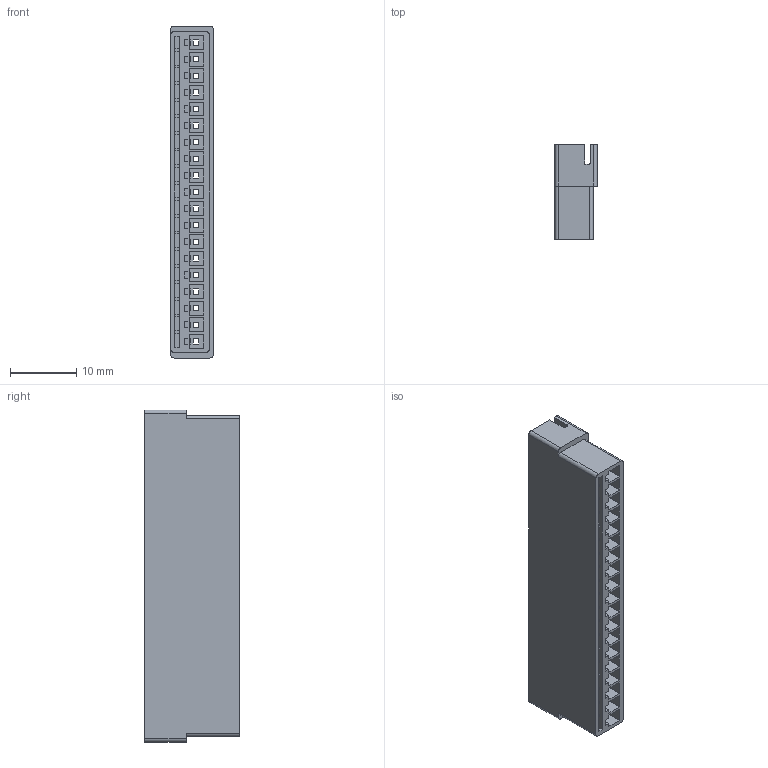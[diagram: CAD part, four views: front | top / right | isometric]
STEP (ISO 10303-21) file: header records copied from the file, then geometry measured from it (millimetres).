
FILE_DESCRIPTION(('CATIA V5 STEP Exchange'),'2;1');
FILE_NAME('\\Erp\共享文件夹\3D文件\小覃\条形连接器-小黄\XH\NEY\HC-XH-19EY-05(2.50 单排 母孔座-HCTL).stp','2025-02-25T09:54:22+00:00',('none'),('none'),'CATIA Version 5 Release 20 GA (IN-10)','CATIA V5 STEP AP203','none');
FILE_SCHEMA(('CONFIG_CONTROL_DESIGN'));
Length unit declared in the file: millimetre
Products named in the file (1): Part2
Bounding box: 6.4 x 14.3 x 50 mm (x, y, z)
Volume: 2764.4 mm3; surface area: 4475.2 mm2
Topology: 1 solids, 1 shells, 493 faces, 1483 edges, 974 vertices
Faces by surface type: plane 479, cylinder 14
Entity records: 15097 total; most frequent: ORIENTED_EDGE 2966, CARTESIAN_POINT 2685, DIRECTION 1931, EDGE_CURVE 1483, VECTOR 1451, LINE 1451, VERTEX_POINT 974, EDGE_LOOP 551
